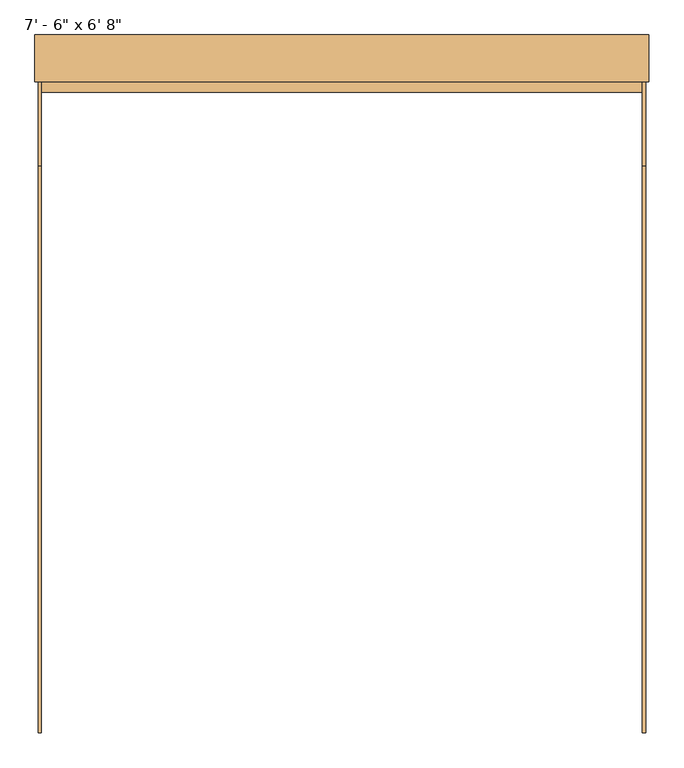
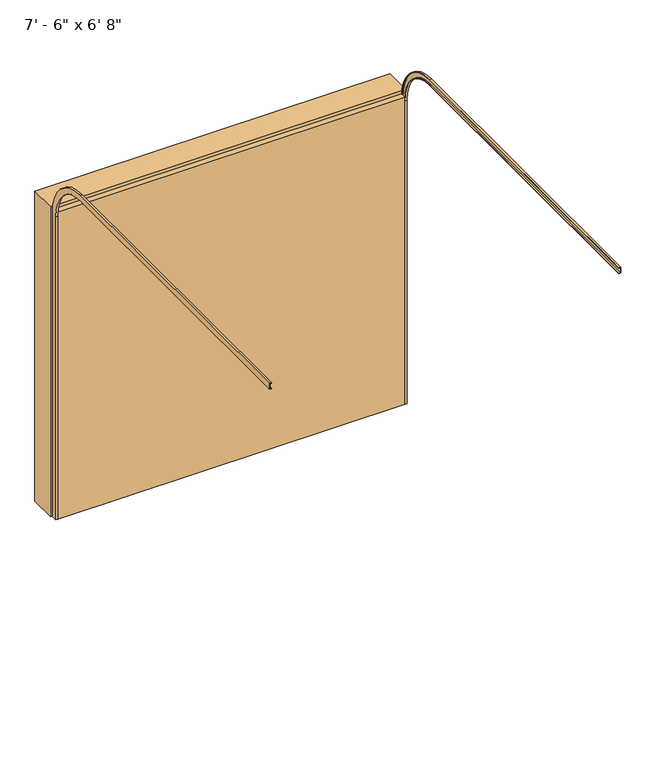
"""IFC4 building model written with IfcOpenShell, lengths in millimetres: door geometry."""

from ifc_helpers import new_model, si_unit, frame, origin, origin_with_axes, place, context, project, spatial, polyline, circle_curve, outline, extrude, source, transform, mapped, element, save
from ifc_brep_helpers import plane_surface, cylinder_surface, revolved_surface, advanced_brep


def door_52740d09(model_context):
    return source(origin(), model_context, "Body", "SolidModel", [
        advanced_brep(
        [(1155.7, -132.075, 0.0), (1143.0, -132.075, 0.0), (1143.0, -128.9, 0.0), (1152.525, -128.9, 0.0), (1152.525, -95.275, 0.0), (1143.0, -95.275, 0.0), (1143.0, -92.075, 0.0), (1155.7, -92.075, 0.0), (1155.7, -132.075, 2107.8), (1143.0, -132.075, 2107.8), (1143.0, -411.475, 2387.2), (1143.0, -2570.475, 2387.2), (1143.0, -2570.475, 2390.375), (1143.0, -411.475, 2390.375), (1143.0, -128.9, 2107.8), (1152.525, -128.9, 2107.8), (1152.525, -411.475, 2390.375), (1152.525, -2570.475, 2390.375), (1152.525, -2570.475, 2424.0), (1152.525, -411.475, 2424.0), (1152.525, -95.275, 2107.8), (1143.0, -95.275, 2107.8), (1143.0, -411.475, 2424.0), (1143.0, -2570.475, 2424.0), (1143.0, -2570.475, 2427.2), (1143.0, -411.475, 2427.2), (1143.0, -92.075, 2107.8), (1155.7, -92.075, 2107.8), (1155.7, -411.475, 2427.2), (1155.7, -2570.475, 2427.2), (1155.7, -2570.475, 2387.2), (1155.7, -411.475, 2387.2)],
        [
            (0, 1),
            (1, 2),
            (2, 3),
            (3, 4),
            (4, 5),
            (5, 6),
            (6, 7),
            (7, 0),
            (0, 8),
            (8, 9),
            (9, 1),
            (9, 10, circle_curve(frame((1143.0, -411.475, 2107.8), z_axis=(1.0, 0.0, 0.0), x_axis=(0.0, 1.0, 0.0)), 279.4)),
            (10, 11),
            (11, 12),
            (12, 13),
            (13, 14, circle_curve(frame((1143.0, -411.475, 2107.8), z_axis=(-1.0, 0.0, 0.0), x_axis=(0.0, 1.0, 0.0)), 282.575)),
            (14, 2),
            (14, 15),
            (15, 3),
            (15, 16, circle_curve(frame((1152.525, -411.475, 2107.8), z_axis=(1.0, 0.0, 0.0), x_axis=(0.0, 1.0, 0.0)), 282.575)),
            (16, 17),
            (17, 18),
            (18, 19),
            (19, 20, circle_curve(frame((1152.525, -411.475, 2107.8), z_axis=(-1.0, 0.0, 0.0), x_axis=(0.0, 1.0, 0.0)), 316.2)),
            (20, 4),
            (20, 21),
            (21, 5),
            (21, 22, circle_curve(frame((1143.0, -411.475, 2107.8), z_axis=(1.0, 0.0, 0.0), x_axis=(0.0, 1.0, 0.0)), 316.2)),
            (22, 23),
            (23, 24),
            (24, 25),
            (25, 26, circle_curve(frame((1143.0, -411.475, 2107.8), z_axis=(-1.0, 0.0, 0.0), x_axis=(0.0, 1.0, 0.0)), 319.4)),
            (26, 6),
            (26, 27),
            (27, 7),
            (27, 28, circle_curve(frame((1155.7, -411.475, 2107.8), z_axis=(1.0, 0.0, 0.0), x_axis=(0.0, 1.0, 0.0)), 319.4)),
            (28, 29),
            (29, 30),
            (30, 31),
            (31, 8, circle_curve(frame((1155.7, -411.475, 2107.8), z_axis=(-1.0, 0.0, 0.0), x_axis=(0.0, 1.0, 0.0)), 279.4)),
            (31, 10),
            (13, 16),
            (19, 22),
            (25, 28),
            (29, 24),
            (23, 18),
            (17, 12),
            (11, 30),
        ],
        [
            plane_surface(frame((0.0, -132.075, 0.0), z_axis=(0.0, 0.0, -1.0), x_axis=(1.0, 0.0, 0.0))),
            plane_surface(frame((1155.7, -132.075, 0.0), z_axis=(0.0, -1.0, 0.0), x_axis=(0.0, 0.0, 1.0))),
            plane_surface(frame((1143.0, -132.075, 0.0), z_axis=(-1.0, 0.0, 0.0), x_axis=(0.0, 0.0, 1.0))),
            plane_surface(frame((1143.0, -128.9, 0.0), z_axis=(0.0, 1.0, 0.0), x_axis=(0.0, 0.0, 1.0))),
            plane_surface(frame((1152.525, -128.9, 0.0), z_axis=(-1.0, 0.0, 0.0), x_axis=(0.0, 0.0, 1.0))),
            plane_surface(frame((1152.525, -95.275, 0.0), z_axis=(0.0, -1.0, 0.0), x_axis=(0.0, 0.0, 1.0))),
            plane_surface(frame((1143.0, -95.275, 0.0), z_axis=(-1.0, 0.0, 0.0), x_axis=(0.0, 0.0, 1.0))),
            plane_surface(frame((1143.0, -92.075, 0.0), z_axis=(0.0, 1.0, 0.0), x_axis=(0.0, 0.0, 1.0))),
            plane_surface(frame((1155.7, -92.075, 0.0), z_axis=(1.0, 0.0, 0.0), x_axis=(0.0, 0.0, 1.0))),
            revolved_surface(polyline([(1155.7, -132.07500000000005, 2107.8), (1143.0, -132.07500000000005, 2107.8)]), (0.0, -411.475, 2107.8), (1.0, 0.0, 0.0)),
            cylinder_surface(frame((0.0, -411.475, 2107.8), z_axis=(1.0, 0.0, 0.0), x_axis=(0.0, 1.0, 0.0)), 282.575),
            revolved_surface(polyline([(1152.525, -95.27500000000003, 2107.8), (1143.0, -95.27500000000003, 2107.8)]), (0.0, -411.475, 2107.8), (1.0, 0.0, 0.0)),
            cylinder_surface(frame((0.0, -411.475, 2107.8), z_axis=(1.0, 0.0, 0.0), x_axis=(0.0, 1.0, 0.0)), 319.4),
            plane_surface(frame((0.0, -2570.475, 2387.2), z_axis=(0.0, -1.0, 0.0), x_axis=(1.0, 0.0, 0.0))),
            plane_surface(frame((1155.7, -411.475, 2387.2), z_axis=(0.0, 0.0, -1.0), x_axis=(0.0, -1.0, 0.0))),
            plane_surface(frame((1143.0, -411.475, 2390.375), z_axis=(0.0, 0.0, 1.0), x_axis=(0.0, -1.0, 0.0))),
            plane_surface(frame((1152.525, -411.475, 2424.0), z_axis=(0.0, 0.0, -1.0), x_axis=(0.0, -1.0, 0.0))),
            plane_surface(frame((1143.0, -411.475, 2427.2), z_axis=(0.0, 0.0, 1.0), x_axis=(0.0, -1.0, 0.0))),
        ],
        [
            (0, [[1, 2, 3, 4, 5, 6, 7, 8]]),
            (1, [[-1, 9, 10, 11]]),
            (2, [[-2, -11, 12, 13, 14, 15, 16, 17]]),
            (3, [[-3, -17, 18, 19]]),
            (4, [[-4, -19, 20, 21, 22, 23, 24, 25]]),
            (5, [[-5, -25, 26, 27]]),
            (6, [[-6, -27, 28, 29, 30, 31, 32, 33]]),
            (7, [[-7, -33, 34, 35]]),
            (8, [[-8, -35, 36, 37, 38, 39, 40, -9]]),
            (9, [[-12, -10, -40, 41]]),
            (10, [[-20, -18, -16, 42]]),
            (11, [[-28, -26, -24, 43]]),
            (12, [[-36, -34, -32, 44]]),
            (13, [[-38, 45, -30, 46, -22, 47, -14, 48]]),
            (14, [[-41, -39, -48, -13]]),
            (15, [[-42, -15, -47, -21]]),
            (16, [[-43, -23, -46, -29]]),
            (17, [[-44, -31, -45, -37]]),
        ],
    ),
        advanced_brep(
        [(-1155.7, -132.075, 0.0), (-1155.7, -92.075, 0.0), (-1143.0, -92.075, 0.0), (-1143.0, -95.275, 0.0), (-1152.525, -95.275, 0.0), (-1152.525, -128.9, 0.0), (-1143.0, -128.9, 0.0), (-1143.0, -132.075, 0.0), (-1155.7, -132.075, 2107.8), (-1155.7, -411.475, 2387.2), (-1155.7, -2570.475, 2387.2), (-1155.7, -2570.475, 2427.2), (-1155.7, -411.475, 2427.2), (-1155.7, -92.075, 2107.8), (-1143.0, -92.075, 2107.8), (-1143.0, -411.475, 2427.2), (-1143.0, -2570.475, 2427.2), (-1143.0, -2570.475, 2424.0), (-1143.0, -411.475, 2424.0), (-1143.0, -95.275, 2107.8), (-1152.525, -95.275, 2107.8), (-1152.525, -411.475, 2424.0), (-1152.525, -2570.475, 2424.0), (-1152.525, -2570.475, 2390.375), (-1152.525, -411.475, 2390.375), (-1152.525, -128.9, 2107.8), (-1143.0, -128.9, 2107.8), (-1143.0, -411.475, 2390.375), (-1143.0, -2570.475, 2390.375), (-1143.0, -2570.475, 2387.2), (-1143.0, -411.475, 2387.2), (-1143.0, -132.075, 2107.8)],
        [
            (0, 1),
            (1, 2),
            (2, 3),
            (3, 4),
            (4, 5),
            (5, 6),
            (6, 7),
            (7, 0),
            (0, 8),
            (8, 9, circle_curve(frame((-1155.7, -411.475, 2107.8), z_axis=(1.0, 0.0, 0.0), x_axis=(0.0, 1.0, 0.0)), 279.4)),
            (9, 10),
            (10, 11),
            (11, 12),
            (12, 13, circle_curve(frame((-1155.7, -411.475, 2107.8), z_axis=(-1.0, 0.0, 0.0), x_axis=(0.0, 1.0, 0.0)), 319.4)),
            (13, 1),
            (13, 14),
            (14, 2),
            (14, 15, circle_curve(frame((-1143.0, -411.475, 2107.8), z_axis=(1.0, 0.0, 0.0), x_axis=(0.0, 1.0, 0.0)), 319.4)),
            (15, 16),
            (16, 17),
            (17, 18),
            (18, 19, circle_curve(frame((-1143.0, -411.475, 2107.8), z_axis=(-1.0, 0.0, 0.0), x_axis=(0.0, 1.0, 0.0)), 316.2)),
            (19, 3),
            (19, 20),
            (20, 4),
            (20, 21, circle_curve(frame((-1152.525, -411.475, 2107.8), z_axis=(1.0, 0.0, 0.0), x_axis=(0.0, 1.0, 0.0)), 316.2)),
            (21, 22),
            (22, 23),
            (23, 24),
            (24, 25, circle_curve(frame((-1152.525, -411.475, 2107.8), z_axis=(-1.0, 0.0, 0.0), x_axis=(0.0, 1.0, 0.0)), 282.575)),
            (25, 5),
            (25, 26),
            (26, 6),
            (26, 27, circle_curve(frame((-1143.0, -411.475, 2107.8), z_axis=(1.0, 0.0, 0.0), x_axis=(0.0, 1.0, 0.0)), 282.575)),
            (27, 28),
            (28, 29),
            (29, 30),
            (30, 31, circle_curve(frame((-1143.0, -411.475, 2107.8), z_axis=(-1.0, 0.0, 0.0), x_axis=(0.0, 1.0, 0.0)), 279.4)),
            (31, 7),
            (31, 8),
            (12, 15),
            (18, 21),
            (24, 27),
            (30, 9),
            (10, 29),
            (28, 23),
            (22, 17),
            (16, 11),
        ],
        [
            plane_surface(frame((0.0, -132.075, 0.0), z_axis=(0.0, 0.0, -1.0), x_axis=(1.0, 0.0, 0.0))),
            plane_surface(frame((-1155.7, -132.075, 0.0), z_axis=(-1.0, 0.0, 0.0), x_axis=(0.0, 0.0, 1.0))),
            plane_surface(frame((-1155.7, -92.075, 0.0), z_axis=(0.0, 1.0, 0.0), x_axis=(0.0, 0.0, 1.0))),
            plane_surface(frame((-1143.0, -92.075, 0.0), z_axis=(1.0, 0.0, 0.0), x_axis=(0.0, 0.0, 1.0))),
            plane_surface(frame((-1143.0, -95.275, 0.0), z_axis=(0.0, -1.0, 0.0), x_axis=(0.0, 0.0, 1.0))),
            plane_surface(frame((-1152.525, -95.275, 0.0), z_axis=(1.0, 0.0, 0.0), x_axis=(0.0, 0.0, 1.0))),
            plane_surface(frame((-1152.525, -128.9, 0.0), z_axis=(0.0, 1.0, 0.0), x_axis=(0.0, 0.0, 1.0))),
            plane_surface(frame((-1143.0, -128.9, 0.0), z_axis=(1.0, 0.0, 0.0), x_axis=(0.0, 0.0, 1.0))),
            plane_surface(frame((-1143.0, -132.075, 0.0), z_axis=(0.0, -1.0, 0.0), x_axis=(0.0, 0.0, 1.0))),
            cylinder_surface(frame((0.0, -411.475, 2107.8), z_axis=(1.0, 0.0, 0.0), x_axis=(0.0, 1.0, 0.0)), 319.4),
            revolved_surface(polyline([(-1143.0, -95.27500000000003, 2107.8), (-1152.525, -95.27500000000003, 2107.8)]), (0.0, -411.475, 2107.8), (1.0, 0.0, 0.0)),
            cylinder_surface(frame((0.0, -411.475, 2107.8), z_axis=(1.0, 0.0, 0.0), x_axis=(0.0, 1.0, 0.0)), 282.575),
            revolved_surface(polyline([(-1143.0, -132.07500000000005, 2107.8), (-1155.7, -132.07500000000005, 2107.8)]), (0.0, -411.475, 2107.8), (1.0, 0.0, 0.0)),
            plane_surface(frame((0.0, -2570.475, 2387.2), z_axis=(0.0, -1.0, 0.0), x_axis=(1.0, 0.0, 0.0))),
            plane_surface(frame((-1155.7, -411.475, 2427.2), z_axis=(0.0, 0.0, 1.0), x_axis=(0.0, -1.0, 0.0))),
            plane_surface(frame((-1143.0, -411.475, 2424.0), z_axis=(0.0, 0.0, -1.0), x_axis=(0.0, -1.0, 0.0))),
            plane_surface(frame((-1152.525, -411.475, 2390.375), z_axis=(0.0, 0.0, 1.0), x_axis=(0.0, -1.0, 0.0))),
            plane_surface(frame((-1143.0, -411.475, 2387.2), z_axis=(0.0, 0.0, -1.0), x_axis=(0.0, -1.0, 0.0))),
        ],
        [
            (0, [[1, 2, 3, 4, 5, 6, 7, 8]]),
            (1, [[-1, 9, 10, 11, 12, 13, 14, 15]]),
            (2, [[-2, -15, 16, 17]]),
            (3, [[-3, -17, 18, 19, 20, 21, 22, 23]]),
            (4, [[-4, -23, 24, 25]]),
            (5, [[-5, -25, 26, 27, 28, 29, 30, 31]]),
            (6, [[-6, -31, 32, 33]]),
            (7, [[-7, -33, 34, 35, 36, 37, 38, 39]]),
            (8, [[-8, -39, 40, -9]]),
            (9, [[-18, -16, -14, 41]]),
            (10, [[-26, -24, -22, 42]]),
            (11, [[-34, -32, -30, 43]]),
            (12, [[-10, -40, -38, 44]]),
            (13, [[45, -36, 46, -28, 47, -20, 48, -12]]),
            (14, [[-41, -13, -48, -19]]),
            (15, [[-42, -21, -47, -27]]),
            (16, [[-43, -29, -46, -35]]),
            (17, [[-44, -37, -45, -11]]),
        ],
    ),
        extrude(outline(polyline([(0.0, 1143.0), (0.0, 1168.0), (2158.6, 1168.0), (2158.6, -1168.0), (0.0, -1168.0), (0.0, -1143.0), (2133.6, -1143.0), (2133.6, 1143.0), (0.0, 1143.0)])), frame((0.0, -92.075, 0.0), z_axis=(0.0, 1.0, 0.0), x_axis=(0.0, 0.0, 1.0)), (0.0, 0.0, 1.0), 177.8),
        extrude(outline(polyline([(1143.0, -132.075), (-1143.0, -132.075), (-1143.0, -92.075), (1143.0, -92.075), (1143.0, -132.075)])), origin_with_axes(), (0.0, 0.0, 1.0), 2133.6),
    ])


if __name__ == "__main__":
    model = new_model("IFC4")
    model_context = context("Model", 3, world=origin())
    ifc_project = project(units=[si_unit("LENGTHUNIT", "METRE", prefix="MILLI")], contexts=[model_context])
    site = spatial("IfcSite", under=ifc_project)
    building = spatial("IfcBuilding", under=site)
    placement = place(None, origin())
    door_shape = door_52740d09(model_context)
    element("IfcDoor", 1, ObjectType="Planitar - Garage Door : 7' - 6\" x 6' 8\"", at=placement, inside=building, context=model_context, shape_type="MappedRepresentation", body=[
        mapped(door_shape, transform((0.0, 0.0, 0.0), x_axis=(1.0, 0.0, 0.0), y_axis=(0.0, 1.0, 0.0), z_axis=(0.0, 0.0, 1.0))),
    ])
    save(model, "model.ifc")
